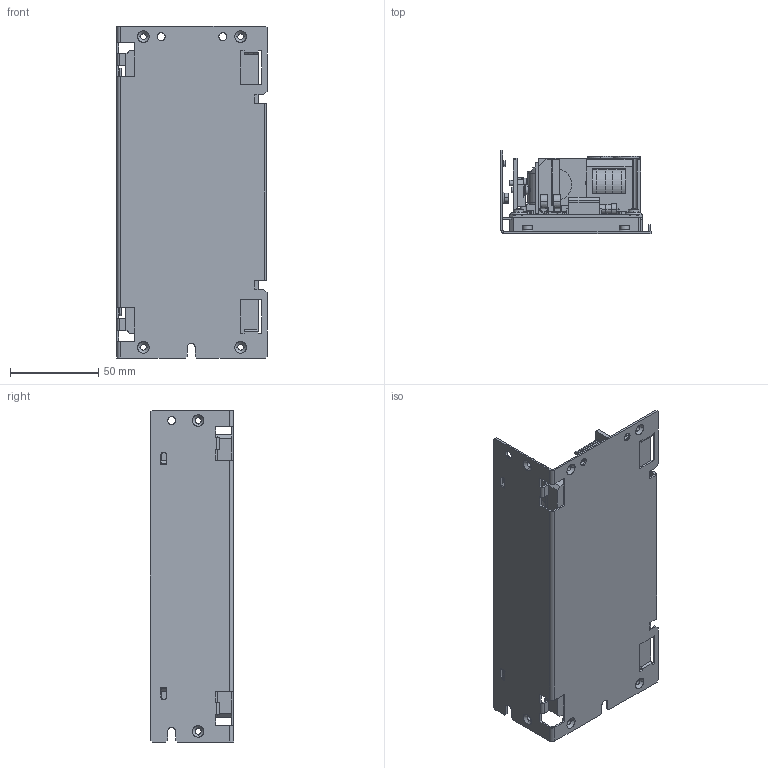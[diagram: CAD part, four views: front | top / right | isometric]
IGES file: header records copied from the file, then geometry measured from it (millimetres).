
Start section: SolidWorks IGES file using analytic representation for surfaces
Global section: file name: C:\zws150baf_l_outline.IGS; native system: SolidWorks 2013; preprocessor: SolidWorks 2013; author: a004653; date: 150831.140936; units: millimetre
Bounding box: 85 x 47 x 188 mm (x, y, z)
Surface area: 116956.1 mm2 (no closed solid volume)
Topology: 0 solids, 0 shells, 2454 faces, 23646 edges, 23622 vertices
Faces by surface type: bspline 1676, revolution 778
